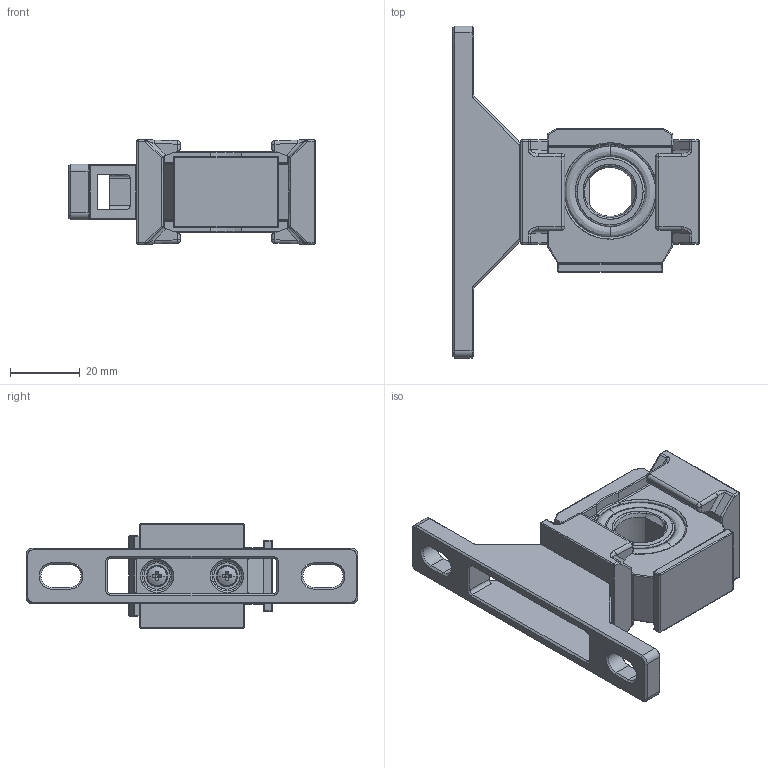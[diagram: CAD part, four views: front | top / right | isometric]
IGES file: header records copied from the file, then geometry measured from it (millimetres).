
Start section: SolidWorks IGES file using analytic representation for surfaces
Global section: file name: C:\Documents and Settings\Administrator\桌面\ZGNUFR／L-03MAB.IGS,15; native system: HSolidWorks 2012; preprocessor: SolidWorks 2012; author: Administrator; date: 140703.155339; units: millimetre
Bounding box: 70.5 x 95 x 29.98 mm (x, y, z)
Surface area: 22996.5 mm2 (no closed solid volume)
Topology: 0 solids, 0 shells, 814 faces, 8786 edges, 10574 vertices
Faces by surface type: revolution 492, bspline 322
